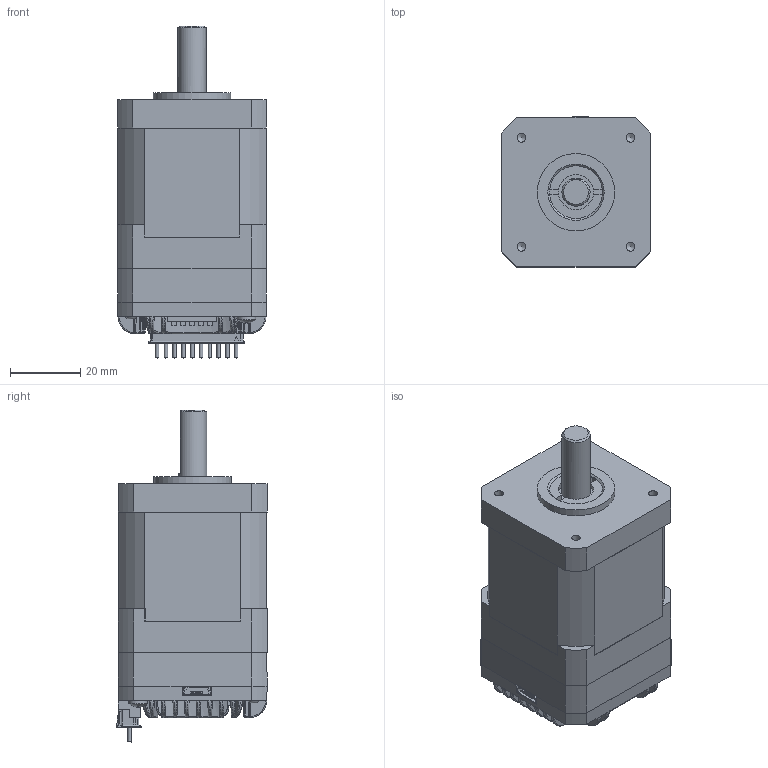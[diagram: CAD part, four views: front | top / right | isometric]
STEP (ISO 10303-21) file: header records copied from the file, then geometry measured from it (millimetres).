
FILE_DESCRIPTION (( 'STEP AP214' ), '1' );
FILE_NAME ('IC42E(T)(C)05.STEP', '2024-11-25T01:38:06', ( '' ), ( '' ), 'SwSTEP 2.0', 'SolidWorks 2023', '' );
FILE_SCHEMA (( 'AUTOMOTIVE_DESIGN' ));
Length unit declared in the file: millimetre
Products named in the file (3): IC42E(T)(C)05; IC42驱动器; IC42电机_装配用
Assembly tree (2 placements, depth 2):
  IC42E(T)(C)05
    IC42电机_装配用
    IC42驱动器
Bounding box: 42.4 x 42.75 x 94.39 mm (x, y, z)
Volume: 107289.3 mm3; surface area: 27883.4 mm2
Topology: 3 solids, 5 shells, 2502 faces, 6854 edges, 4251 vertices
Faces by surface type: plane 1454, cylinder 498, bspline 259, torus 139, cone 104, sphere 48
Full cylindrical faces by diameter (mm): 0.7 x1, 1 x10, 2.5 x4, 3 x3, 3.1 x2, 3.2 x2, 3.252 x2, 5.052 x1, 5.3 x2, 5.5 x2, 5.6 x4, 6 x3, 8 x2, 9 x1, 11 x1, 22 x1
Entity records: 115320 total; most frequent: CARTESIAN_POINT 27540, ORIENTED_EDGE 13428, DIRECTION 11773, EDGE_CURVE 6714, LINE 4499, VECTOR 4499, VERTEX_POINT 4220, AXIS2_PLACEMENT_3D 3637
